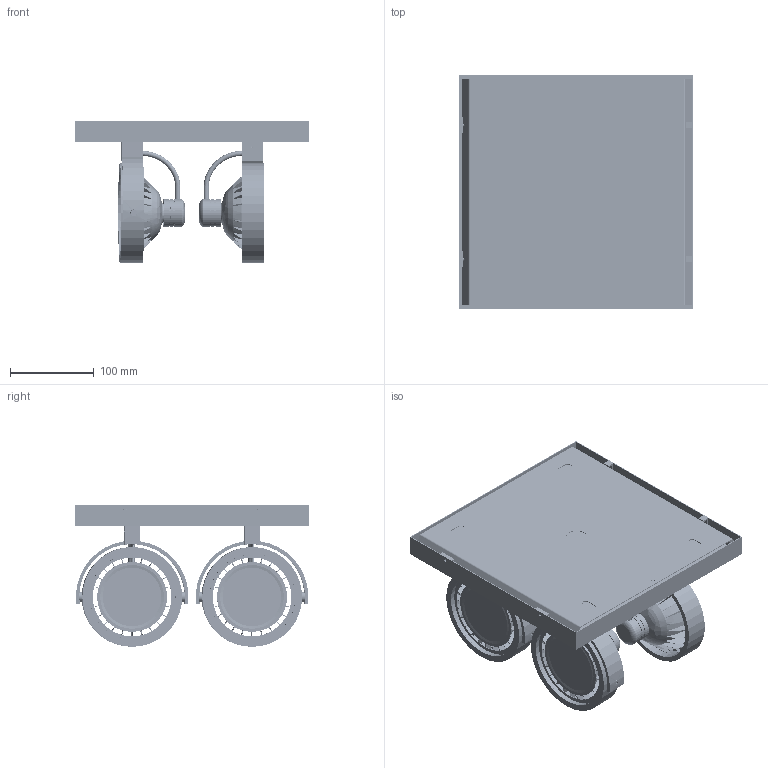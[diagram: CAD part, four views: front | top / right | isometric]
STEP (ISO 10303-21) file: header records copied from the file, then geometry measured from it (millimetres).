
FILE_DESCRIPTION((''),'2;1');
FILE_NAME('1479_ASM','2022-08-11T',('Administrator'),(''),'PRO/ENGINEER BY PARAMETRIC TECHNOLOGY CORPORATION, 2014310','PRO/ENGINEER BY PARAMETRIC TECHNOLOGY CORPORATION, 2014310','');
FILE_SCHEMA(('CONFIG_CONTROL_DESIGN'));
Products named in the file (19): 1479XIDINGHE; 1479GUABAN; ASM0001_ASM; DENGHUAN2; AR1111; ___; TONGJIAN1; GU10DENGTOU; __; DIANXIAN; M10-15_1; GAIHOU2GE_ASM; DIANPIAN-20X10XT1; 1130-07; M10X1NUT_1; M4X8; 1479_ASM
Assembly tree (32 placements, depth 3):
  1479_ASM
    ASM0001_ASM
      1479XIDINGHE
      1479GUABAN
    GAIHOU2GE_ASM  x4
      DENGHUAN2
      AR1111
      ___
      ___
      TONGJIAN1
      GU10DENGTOU
      ___
      __
      DIANXIAN
      M10-15_1
    DIANPIAN-20X10XT1  x4
    1130-07  x4
    M10X1NUT_1  x4
    M4X8  x2
Bounding box: 280 x 280 x 168.89 mm (x, y, z)
Volume: 1243282.4 mm3; surface area: 786053.9 mm2
Topology: 60 solids, 60 shells, 3796 faces, 11209 edges, 7169 vertices
Faces by surface type: cylinder 1365, plane 1199, bspline 892, torus 248, cone 92
Entity records: 61779 total; most frequent: CARTESIAN_POINT 34355, ORIENTED_EDGE 6360, DIRECTION 4710, EDGE_CURVE 3180, VERTEX_POINT 2062, AXIS2_PLACEMENT_3D 1768, EDGE_LOOP 1222, VECTOR 1174
